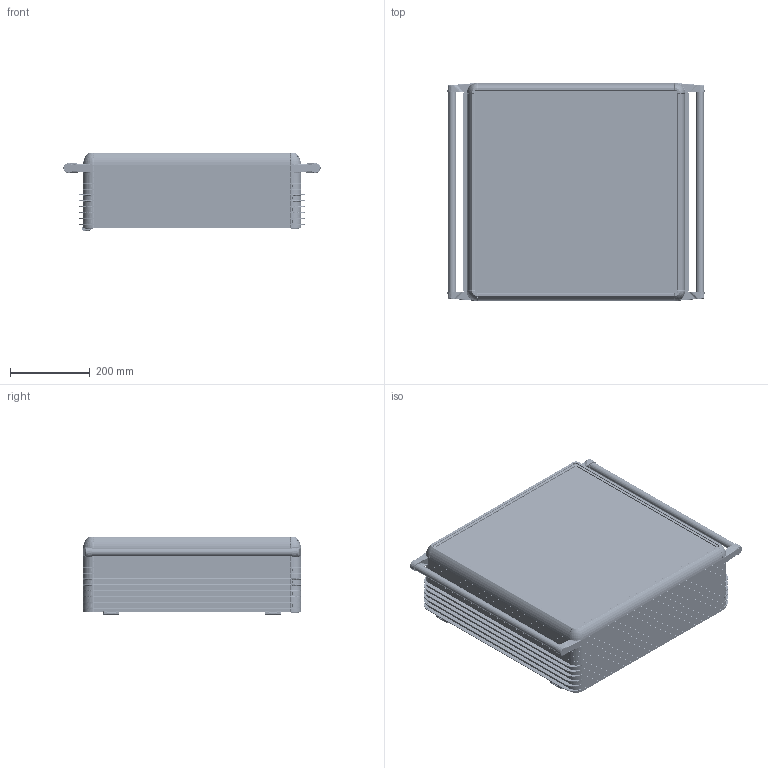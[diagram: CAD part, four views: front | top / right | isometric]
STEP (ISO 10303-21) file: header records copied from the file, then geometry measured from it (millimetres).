
FILE_DESCRIPTION (( 'STEP AP214' ), '1' );
FILE_NAME ('9091-0212.STEP', '2022-04-25T05:22:24', ( '' ), ( '' ), 'SwSTEP 2.0', 'SolidWorks 2022', '' );
FILE_SCHEMA (( 'AUTOMOTIVE_DESIGN' ));
Length unit declared in the file: millimetre
Products named in the file (13): HPECOX-090-001_495; 9091-0212; HPECO-090-001-295_494; ECO90X(SAÐ)_Soðutmalý; ECO9000-0100(SOL); ECO90X(SOL)_Soðutmalý; x91 menteþeli 500X500; 500X500; 9000-0212; HPECOX-090-002_495; ARKA_KAPAK_500X500; ECO9000-0100(SAÐ); boru_525
Assembly tree (22 placements, depth 3):
  9091-0212
    9000-0212
      500X500
      boru_525  x2
      ECO9000-0100(SAÐ)  x2
      ECO9000-0100(SOL)  x2
      HPECO-090-001-295_494  x4
    x91 menteþeli 500X500
      ARKA_KAPAK_500X500
      ECO90X(SAÐ)_Soðutmalý  x2
      ECO90X(SOL)_Soðutmalý  x2
      HPECOX-090-001_495  x2
      HPECOX-090-002_495  x2
Bounding box: 644.57 x 547 x 195.6 mm (x, y, z)
Volume: 6886931.2 mm3; surface area: 2812030.9 mm2
Topology: 50 solids, 100 shells, 12055 faces, 31306 edges, 19022 vertices
Faces by surface type: plane 4191, bspline 3250, cylinder 3214, cone 766, torus 524, sphere 110
Entity records: 336154 total; most frequent: CARTESIAN_POINT 104151, ORIENTED_EDGE 36760, DIRECTION 28735, EDGE_CURVE 18380, VERTEX_POINT 11278, AXIS2_PLACEMENT_3D 10419, VECTOR 7897, LINE 7897
